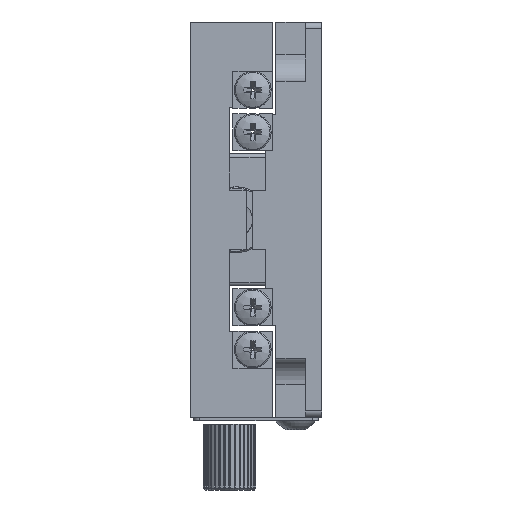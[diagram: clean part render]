
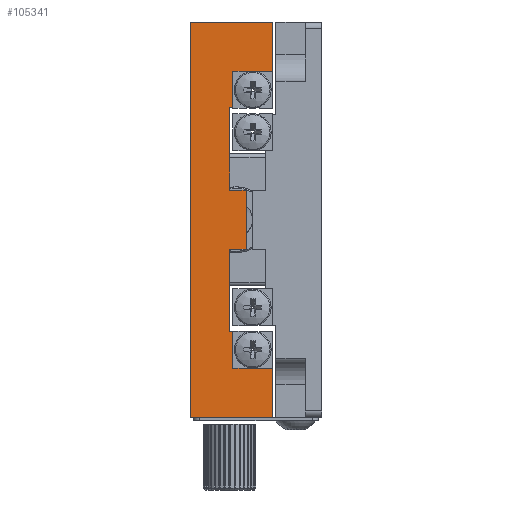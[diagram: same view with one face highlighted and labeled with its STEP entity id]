
A CAD part, left-side view. The second image highlights one B-rep face of the part: STEP entity #105341.
In plain terms, the highlighted planar face has unit normal (-1, 0, 0).
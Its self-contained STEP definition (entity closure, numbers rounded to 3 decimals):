
#3862 = CARTESIAN_POINT ( 'NONE',  ( 96.008, -53.639, -13.018 ) ) ;
#3877 = CARTESIAN_POINT ( 'NONE',  ( 96.008, -53.639, -22.018 ) ) ;
#3899 = CARTESIAN_POINT ( 'NONE',  ( 96.008, -51.139, -0.518 ) ) ;
#6387 = EDGE_CURVE ( 'NONE', #160279, #160298, #28813, .T. ) ;
#6389 = EDGE_CURVE ( 'NONE', #160298, #73963, #28787, .T. ) ;
#6393 = EDGE_CURVE ( 'NONE', #160526, #160331, #28769, .T. ) ;
#6398 = EDGE_CURVE ( 'NONE', #73945, #160279, #28742, .T. ) ;
#11788 = EDGE_CURVE ( 'NONE', #73963, #73918, #27199, .T. ) ;
#11804 = EDGE_CURVE ( 'NONE', #73918, #160353, #27167, .T. ) ;
#11806 = EDGE_CURVE ( 'NONE', #160449, #73932, #27187, .T. ) ;
#11808 = EDGE_CURVE ( 'NONE', #160445, #73932, #27159, .T. ) ;
#11810 = EDGE_CURVE ( 'NONE', #160353, #160445, #27155, .T. ) ;
#11812 = EDGE_CURVE ( 'NONE', #73916, #160526, #27163, .T. ) ;
#11814 = EDGE_CURVE ( 'NONE', #73983, #73916, #27147, .T. ) ;
#11816 = EDGE_CURVE ( 'NONE', #73996, #160461, #27142, .T. ) ;
#17983 = VECTOR ( 'NONE', #149092, 1000. ) ;
#17988 = LINE ( 'NONE', #149091, #17983 ) ;
#21632 = CARTESIAN_POINT ( 'NONE',  ( 96.008, -51.139, -34.518 ) ) ;
#21633 = DIRECTION ( 'NONE',  ( 0., 0., -1. ) ) ;
#21701 = CARTESIAN_POINT ( 'NONE',  ( 96.008, -51.639, -34.518 ) ) ;
#21702 = DIRECTION ( 'NONE',  ( 0., -1., 0. ) ) ;
#21708 = CARTESIAN_POINT ( 'NONE',  ( 96.008, -57.639, -47.518 ) ) ;
#21711 = DIRECTION ( 'NONE',  ( 0., 0., 1. ) ) ;
#21720 = CARTESIAN_POINT ( 'NONE',  ( 96.008, -57.639, -40.018 ) ) ;
#21721 = DIRECTION ( 'NONE',  ( 0., -1., 0. ) ) ;
#21730 = CARTESIAN_POINT ( 'NONE',  ( 96.008, -51.639, -40.018 ) ) ;
#21731 = DIRECTION ( 'NONE',  ( 0., 0., -1. ) ) ;
#21734 = CARTESIAN_POINT ( 'NONE',  ( 96.008, -51.639, -0.518 ) ) ;
#21735 = DIRECTION ( 'NONE',  ( 0., 0., -1. ) ) ;
#21744 = CARTESIAN_POINT ( 'NONE',  ( 96.008, -51.639, 4.982 ) ) ;
#21745 = DIRECTION ( 'NONE',  ( 0., 1., 0. ) ) ;
#21750 = CARTESIAN_POINT ( 'NONE',  ( 96.008, -45.139, -47.518 ) ) ;
#21751 = DIRECTION ( 'NONE',  ( 0., 0., -1. ) ) ;
#27139 = VECTOR ( 'NONE', #21751, 1000. ) ;
#27142 = LINE ( 'NONE', #21750, #27139 ) ;
#27144 = VECTOR ( 'NONE', #21745, 1000. ) ;
#27147 = LINE ( 'NONE', #21744, #27144 ) ;
#27151 = VECTOR ( 'NONE', #21735, 1000. ) ;
#27153 = VECTOR ( 'NONE', #21731, 1000. ) ;
#27155 = LINE ( 'NONE', #21730, #27153 ) ;
#27157 = VECTOR ( 'NONE', #21721, 1000. ) ;
#27159 = LINE ( 'NONE', #21720, #27157 ) ;
#27163 = LINE ( 'NONE', #21734, #27151 ) ;
#27165 = VECTOR ( 'NONE', #21702, 1000. ) ;
#27167 = LINE ( 'NONE', #21701, #27165 ) ;
#27173 = VECTOR ( 'NONE', #21711, 1000. ) ;
#27187 = LINE ( 'NONE', #21708, #27173 ) ;
#27197 = VECTOR ( 'NONE', #21633, 1000. ) ;
#27199 = LINE ( 'NONE', #21632, #27197 ) ;
#27960 = AXIS2_PLACEMENT_3D ( 'NONE', #32008, #32017, #32019 ) ;
#28721 = VECTOR ( 'NONE', #115836, 1000. ) ;
#28742 = LINE ( 'NONE', #115840, #28721 ) ;
#28761 = VECTOR ( 'NONE', #115831, 1000. ) ;
#28769 = LINE ( 'NONE', #115825, #28761 ) ;
#28778 = VECTOR ( 'NONE', #115824, 1000. ) ;
#28787 = LINE ( 'NONE', #115818, #28778 ) ;
#28803 = VECTOR ( 'NONE', #115819, 1000. ) ;
#28813 = LINE ( 'NONE', #115801, #28803 ) ;
#30842 = EDGE_CURVE ( 'NONE', #160461, #160449, #44939, .T. ) ;
#30856 = EDGE_CURVE ( 'NONE', #160475, #73996, #44921, .T. ) ;
#30865 = EDGE_CURVE ( 'NONE', #73983, #160475, #44915, .T. ) ;
#32008 = CARTESIAN_POINT ( 'NONE',  ( 96.008, -51.389, -17.518 ) ) ;
#32014 = PLANE ( 'NONE',  #27960 ) ;
#32017 = DIRECTION ( 'NONE',  ( 1., 0., 0. ) ) ;
#32019 = DIRECTION ( 'NONE',  ( 0., 0., -1. ) ) ;
#39741 = CARTESIAN_POINT ( 'NONE',  ( 96.008, -51.639, -34.518 ) ) ;
#39819 = CARTESIAN_POINT ( 'NONE',  ( 96.008, -51.639, -40.018 ) ) ;
#39822 = CARTESIAN_POINT ( 'NONE',  ( 96.008, -57.639, -47.518 ) ) ;
#39833 = CARTESIAN_POINT ( 'NONE',  ( 96.008, -45.139, -47.518 ) ) ;
#39844 = CARTESIAN_POINT ( 'NONE',  ( 96.008, -57.639, 12.482 ) ) ;
#39887 = CARTESIAN_POINT ( 'NONE',  ( 96.008, -51.639, -0.518 ) ) ;
#44907 = VECTOR ( 'NONE', #49804, 1000. ) ;
#44915 = LINE ( 'NONE', #49752, #44907 ) ;
#44917 = VECTOR ( 'NONE', #49710, 1000. ) ;
#44921 = LINE ( 'NONE', #49692, #44917 ) ;
#44935 = VECTOR ( 'NONE', #49571, 1000. ) ;
#44939 = LINE ( 'NONE', #49553, #44935 ) ;
#49553 = CARTESIAN_POINT ( 'NONE',  ( 96.008, -57.639, -47.518 ) ) ;
#49571 = DIRECTION ( 'NONE',  ( 0., -1., 0. ) ) ;
#49692 = CARTESIAN_POINT ( 'NONE',  ( 96.008, -57.639, 12.482 ) ) ;
#49710 = DIRECTION ( 'NONE',  ( 0., 1., 0. ) ) ;
#49752 = CARTESIAN_POINT ( 'NONE',  ( 96.008, -57.639, -47.518 ) ) ;
#49804 = DIRECTION ( 'NONE',  ( 0., 0., 1. ) ) ;
#54332 = EDGE_CURVE ( 'NONE', #160331, #73945, #17988, .T. ) ;
#64599 = FACE_OUTER_BOUND ( 'NONE', #111153, .T. ) ;
#73916 = VERTEX_POINT ( 'NONE', #119779 ) ;
#73918 = VERTEX_POINT ( 'NONE', #119780 ) ;
#73932 = VERTEX_POINT ( 'NONE', #119787 ) ;
#73945 = VERTEX_POINT ( 'NONE', #119795 ) ;
#73963 = VERTEX_POINT ( 'NONE', #119806 ) ;
#73983 = VERTEX_POINT ( 'NONE', #119818 ) ;
#73996 = VERTEX_POINT ( 'NONE', #119826 ) ;
#105341 = ADVANCED_FACE ( 'NONE', ( #64599 ), #32014, .F. ) ;
#111153 = EDGE_LOOP ( 'NONE', ( #112430, #112428, #112426, #112424, #112421, #112419, #112417, #112415, #112413, #112411, #112408, #112406, #112404, #112402, #112400, #112398 ) ) ;
#112398 = ORIENTED_EDGE ( 'NONE', *, *, #30842, .T. ) ;
#112400 = ORIENTED_EDGE ( 'NONE', *, *, #11816, .T. ) ;
#112402 = ORIENTED_EDGE ( 'NONE', *, *, #30856, .T. ) ;
#112404 = ORIENTED_EDGE ( 'NONE', *, *, #30865, .T. ) ;
#112406 = ORIENTED_EDGE ( 'NONE', *, *, #11814, .F. ) ;
#112408 = ORIENTED_EDGE ( 'NONE', *, *, #11812, .F. ) ;
#112411 = ORIENTED_EDGE ( 'NONE', *, *, #6393, .F. ) ;
#112413 = ORIENTED_EDGE ( 'NONE', *, *, #54332, .F. ) ;
#112415 = ORIENTED_EDGE ( 'NONE', *, *, #6398, .F. ) ;
#112417 = ORIENTED_EDGE ( 'NONE', *, *, #6387, .F. ) ;
#112419 = ORIENTED_EDGE ( 'NONE', *, *, #6389, .F. ) ;
#112421 = ORIENTED_EDGE ( 'NONE', *, *, #11788, .F. ) ;
#112424 = ORIENTED_EDGE ( 'NONE', *, *, #11804, .F. ) ;
#112426 = ORIENTED_EDGE ( 'NONE', *, *, #11810, .F. ) ;
#112428 = ORIENTED_EDGE ( 'NONE', *, *, #11808, .F. ) ;
#112430 = ORIENTED_EDGE ( 'NONE', *, *, #11806, .T. ) ;
#115801 = CARTESIAN_POINT ( 'NONE',  ( 96.008, -53.639, -22.018 ) ) ;
#115818 = CARTESIAN_POINT ( 'NONE',  ( 96.008, -51.139, -22.018 ) ) ;
#115819 = DIRECTION ( 'NONE',  ( 0., 0., -1. ) ) ;
#115824 = DIRECTION ( 'NONE',  ( 0., 1., 0. ) ) ;
#115825 = CARTESIAN_POINT ( 'NONE',  ( 96.008, -51.139, -0.518 ) ) ;
#115831 = DIRECTION ( 'NONE',  ( 0., 1., 0. ) ) ;
#115836 = DIRECTION ( 'NONE',  ( 0., -1., 0. ) ) ;
#115840 = CARTESIAN_POINT ( 'NONE',  ( 96.008, -53.639, -13.018 ) ) ;
#119779 = CARTESIAN_POINT ( 'NONE',  ( 96.008, -51.639, 4.982 ) ) ;
#119780 = CARTESIAN_POINT ( 'NONE',  ( 96.008, -51.139, -34.518 ) ) ;
#119787 = CARTESIAN_POINT ( 'NONE',  ( 96.008, -57.639, -40.018 ) ) ;
#119795 = CARTESIAN_POINT ( 'NONE',  ( 96.008, -51.139, -13.018 ) ) ;
#119806 = CARTESIAN_POINT ( 'NONE',  ( 96.008, -51.139, -22.018 ) ) ;
#119818 = CARTESIAN_POINT ( 'NONE',  ( 96.008, -57.639, 4.982 ) ) ;
#119826 = CARTESIAN_POINT ( 'NONE',  ( 96.008, -45.139, 12.482 ) ) ;
#149091 = CARTESIAN_POINT ( 'NONE',  ( 96.008, -51.139, -13.018 ) ) ;
#149092 = DIRECTION ( 'NONE',  ( 0., 0., -1. ) ) ;
#160279 = VERTEX_POINT ( 'NONE', #3862 ) ;
#160298 = VERTEX_POINT ( 'NONE', #3877 ) ;
#160331 = VERTEX_POINT ( 'NONE', #3899 ) ;
#160353 = VERTEX_POINT ( 'NONE', #39741 ) ;
#160445 = VERTEX_POINT ( 'NONE', #39819 ) ;
#160449 = VERTEX_POINT ( 'NONE', #39822 ) ;
#160461 = VERTEX_POINT ( 'NONE', #39833 ) ;
#160475 = VERTEX_POINT ( 'NONE', #39844 ) ;
#160526 = VERTEX_POINT ( 'NONE', #39887 ) ;
